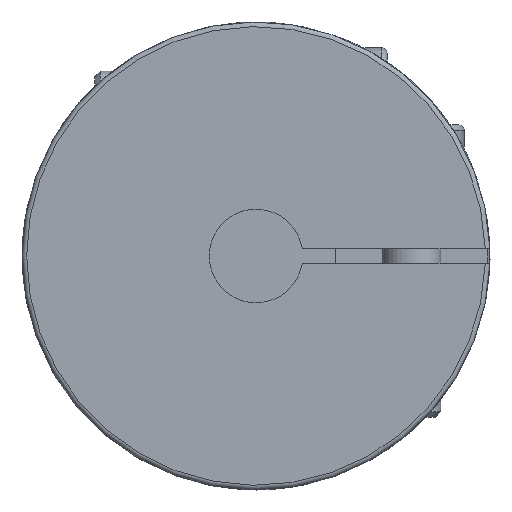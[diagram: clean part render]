
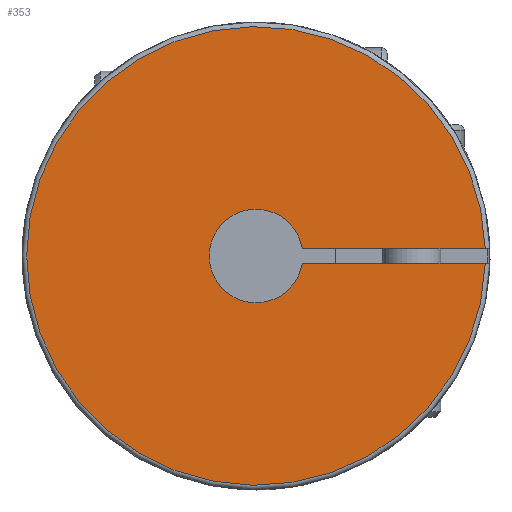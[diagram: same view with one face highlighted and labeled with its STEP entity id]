
A CAD part, left-side view. The second image highlights one B-rep face of the part: STEP entity #353.
In plain terms, the highlighted planar face has unit normal (-1, 0, 0).
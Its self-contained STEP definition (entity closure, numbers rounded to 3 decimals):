
#353 = ADVANCED_FACE( '', ( #750 ), #751, .T. );
#750 = FACE_OUTER_BOUND( '', #1371, .T. );
#751 = PLANE( '', #1372 );
#1371 = EDGE_LOOP( '', ( #2492, #2493, #2494, #2495 ) );
#1372 = AXIS2_PLACEMENT_3D( '', #2496, #2497, #2498 );
#2492 = ORIENTED_EDGE( '', *, *, #2880, .F. );
#2493 = ORIENTED_EDGE( '', *, *, #2785, .T. );
#2494 = ORIENTED_EDGE( '', *, *, #2871, .F. );
#2495 = ORIENTED_EDGE( '', *, *, #2916, .F. );
#2496 = CARTESIAN_POINT( '', ( 0., 0., 2.5 ) );
#2497 = DIRECTION( '', ( -1., 0., 0. ) );
#2498 = DIRECTION( '', ( 0., 0., 1. ) );
#2785 = EDGE_CURVE( '', #3311, #3315, #3317, .T. );
#2871 = EDGE_CURVE( '', #3453, #3315, #3455, .T. );
#2880 = EDGE_CURVE( '', #3311, #3465, #3469, .T. );
#2916 = EDGE_CURVE( '', #3465, #3453, #3518, .T. );
#3311 = VERTEX_POINT( '', #4115 );
#3315 = VERTEX_POINT( '', #4124 );
#3317 = CIRCLE( '', #4131, 9.8 );
#3453 = VERTEX_POINT( '', #4387 );
#3455 = LINE( '', #4390, #4391 );
#3465 = VERTEX_POINT( '', #4408 );
#3469 = LINE( '', #4415, #4416 );
#3518 = CIRCLE( '', #4496, 2. );
#4115 = CARTESIAN_POINT( '', ( 0., -9.795, 0.3 ) );
#4124 = CARTESIAN_POINT( '', ( 0., -9.795, -0.3 ) );
#4131 = AXIS2_PLACEMENT_3D( '', #5225, #5226, #5227 );
#4387 = CARTESIAN_POINT( '', ( 0., -1.977, -0.3 ) );
#4390 = CARTESIAN_POINT( '', ( 0., 0., -0.3 ) );
#4391 = VECTOR( '', #5338, 1000. );
#4408 = CARTESIAN_POINT( '', ( 0., -1.977, 0.3 ) );
#4415 = CARTESIAN_POINT( '', ( 0., 0., 0.3 ) );
#4416 = VECTOR( '', #5347, 1000. );
#4496 = AXIS2_PLACEMENT_3D( '', #5378, #5379, #5380 );
#5225 = CARTESIAN_POINT( '', ( 0., 0., 0. ) );
#5226 = DIRECTION( '', ( -1., 0., 0. ) );
#5227 = DIRECTION( '', ( 0., 0., 1. ) );
#5338 = DIRECTION( '', ( 0., -1., 0. ) );
#5347 = DIRECTION( '', ( 0., 1., 0. ) );
#5378 = CARTESIAN_POINT( '', ( 0., 0., 0. ) );
#5379 = DIRECTION( '', ( -1., 0., 0. ) );
#5380 = DIRECTION( '', ( 0., -1., 0. ) );
